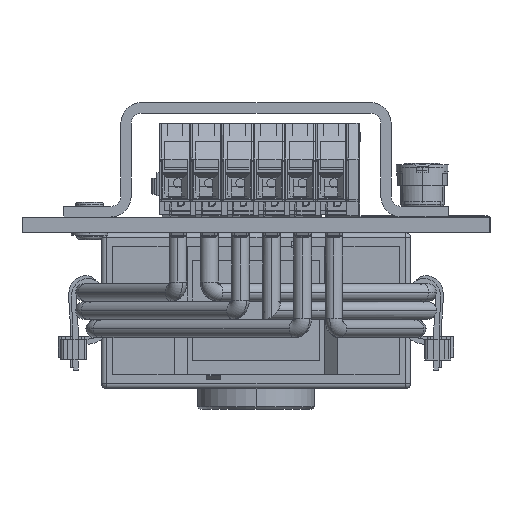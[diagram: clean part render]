
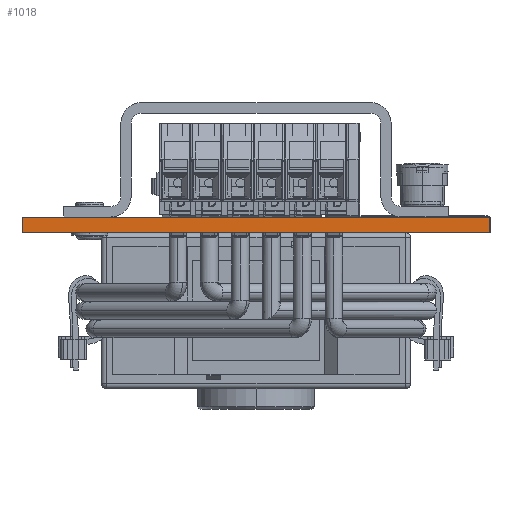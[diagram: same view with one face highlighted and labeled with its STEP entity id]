
A CAD part, left-side view. The second image highlights one B-rep face of the part: STEP entity #1018.
In plain terms, the highlighted planar face has unit normal (-1, 0, 0).
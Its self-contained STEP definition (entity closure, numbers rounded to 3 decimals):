
#784 = ORIENTED_EDGE ( 'NONE', *, *, #51832, .T. ) ;
#1018 = ADVANCED_FACE ( 'NONE', ( #7915 ), #67993, .F. ) ;
#4288 = VERTEX_POINT ( 'NONE', #65085 ) ;
#7915 = FACE_OUTER_BOUND ( 'NONE', #82248, .T. ) ;
#11083 = CARTESIAN_POINT ( 'NONE',  ( 0., 0., 3. ) ) ;
#12108 = DIRECTION ( 'NONE',  ( 1., 0., 0. ) ) ;
#12326 = LINE ( 'NONE', #62968, #24806 ) ;
#13745 = CARTESIAN_POINT ( 'NONE',  ( 0., 0., 0. ) ) ;
#16960 = LINE ( 'NONE', #32855, #50779 ) ;
#24806 = VECTOR ( 'NONE', #39626, 1000. ) ;
#32855 = CARTESIAN_POINT ( 'NONE',  ( 0., 45., 3. ) ) ;
#35194 = DIRECTION ( 'NONE',  ( 0., 0., -1. ) ) ;
#37993 = VECTOR ( 'NONE', #99661, 1000. ) ;
#39626 = DIRECTION ( 'NONE',  ( 0., -1., 0. ) ) ;
#45406 = CARTESIAN_POINT ( 'NONE',  ( 0., 45., 0. ) ) ;
#45617 = AXIS2_PLACEMENT_3D ( 'NONE', #11083, #12108, #35194 ) ;
#45716 = EDGE_CURVE ( 'NONE', #85195, #4288, #59220, .T. ) ;
#46213 = CARTESIAN_POINT ( 'NONE',  ( 0., -45., 3. ) ) ;
#49446 = ORIENTED_EDGE ( 'NONE', *, *, #45716, .F. ) ;
#50779 = VECTOR ( 'NONE', #89371, 1000. ) ;
#51832 = EDGE_CURVE ( 'NONE', #62260, #86903, #16960, .T. ) ;
#58915 = EDGE_CURVE ( 'NONE', #86903, #4288, #74876, .T. ) ;
#59036 = EDGE_CURVE ( 'NONE', #62260, #85195, #12326, .T. ) ;
#59220 = LINE ( 'NONE', #74895, #37993 ) ;
#62260 = VERTEX_POINT ( 'NONE', #70180 ) ;
#62968 = CARTESIAN_POINT ( 'NONE',  ( 0., 0., 3. ) ) ;
#65085 = CARTESIAN_POINT ( 'NONE',  ( 0., -45., 0. ) ) ;
#67993 = PLANE ( 'NONE',  #45617 ) ;
#69843 = VECTOR ( 'NONE', #93688, 1000. ) ;
#70180 = CARTESIAN_POINT ( 'NONE',  ( 0., 45., 3. ) ) ;
#72979 = ORIENTED_EDGE ( 'NONE', *, *, #58915, .T. ) ;
#74876 = LINE ( 'NONE', #13745, #69843 ) ;
#74895 = CARTESIAN_POINT ( 'NONE',  ( 0., -45., 3. ) ) ;
#82248 = EDGE_LOOP ( 'NONE', ( #72979, #49446, #95076, #784 ) ) ;
#85195 = VERTEX_POINT ( 'NONE', #46213 ) ;
#86903 = VERTEX_POINT ( 'NONE', #45406 ) ;
#89371 = DIRECTION ( 'NONE',  ( 0., 0., -1. ) ) ;
#93688 = DIRECTION ( 'NONE',  ( 0., -1., 0. ) ) ;
#95076 = ORIENTED_EDGE ( 'NONE', *, *, #59036, .F. ) ;
#99661 = DIRECTION ( 'NONE',  ( 0., 0., -1. ) ) ;
